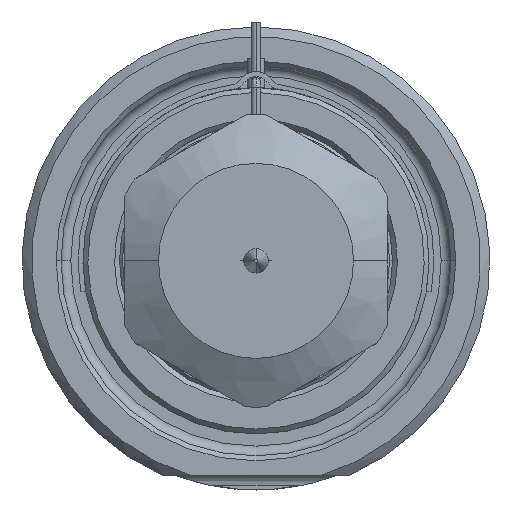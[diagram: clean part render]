
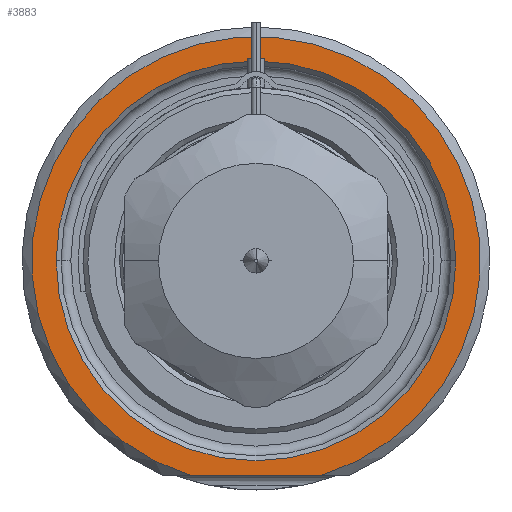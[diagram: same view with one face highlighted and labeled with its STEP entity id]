
A CAD part, front view. The second image highlights one B-rep face of the part: STEP entity #3883.
In plain terms, the highlighted planar face has unit normal (0, -1, 0).
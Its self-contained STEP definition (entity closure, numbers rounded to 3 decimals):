
#1=DIRECTION('',(1.,0.,0.));
#2=VECTOR('',#1,13.416);
#3=CARTESIAN_POINT('',(-6.708,0.,-22.));
#4=LINE('',#3,#2);
#5=CARTESIAN_POINT('',(0.,0.,0.));
#6=DIRECTION('',(0.,1.,0.));
#7=DIRECTION('',(-1.,0.,0.));
#8=AXIS2_PLACEMENT_3D('',#5,#6,#7);
#10=CARTESIAN_POINT('',(0.,0.,0.));
#11=DIRECTION('',(0.,1.,0.));
#12=DIRECTION('',(1.,0.,0.));
#13=AXIS2_PLACEMENT_3D('',#10,#11,#12);
#121=CARTESIAN_POINT('',(0.,0.,0.));
#122=DIRECTION('',(0.,-1.,0.));
#123=DIRECTION('',(0.292,0.,-0.957));
#124=AXIS2_PLACEMENT_3D('',#121,#122,#123);
#3254=CARTESIAN_POINT('',(-20.5,0.,0.));
#3255=CARTESIAN_POINT('',(20.5,0.,0.));
#3256=VERTEX_POINT('',#3254);
#3257=VERTEX_POINT('',#3255);
#3294=CARTESIAN_POINT('',(-6.708,0.,-22.));
#3295=CARTESIAN_POINT('',(6.708,0.,-22.));
#3296=VERTEX_POINT('',#3294);
#3297=VERTEX_POINT('',#3295);
#3866=CARTESIAN_POINT('',(0.,0.,0.));
#3867=DIRECTION('',(0.,-1.,0.));
#3868=DIRECTION('',(1.,0.,0.));
#3869=AXIS2_PLACEMENT_3D('',#3866,#3867,#3868);
#3870=PLANE('',#3869);
#3872=ORIENTED_EDGE('',*,*,#3871,.F.);
#3874=ORIENTED_EDGE('',*,*,#3873,.F.);
#3875=EDGE_LOOP('',(#3872,#3874));
#3876=FACE_OUTER_BOUND('',#3875,.F.);
#3878=ORIENTED_EDGE('',*,*,#3877,.F.);
#3880=ORIENTED_EDGE('',*,*,#3879,.F.);
#3881=EDGE_LOOP('',(#3878,#3880));
#3882=FACE_BOUND('',#3881,.F.);
#3883=ADVANCED_FACE('',(#3876,#3882),#3870,.T.);
#9=CIRCLE('',#8,20.5);
#14=CIRCLE('',#13,20.5);
#125=CIRCLE('',#124,23.);
#3871=EDGE_CURVE('',#3296,#3297,#4,.T.);
#3873=EDGE_CURVE('',#3297,#3296,#125,.T.);
#3877=EDGE_CURVE('',#3256,#3257,#9,.T.);
#3879=EDGE_CURVE('',#3257,#3256,#14,.T.);
